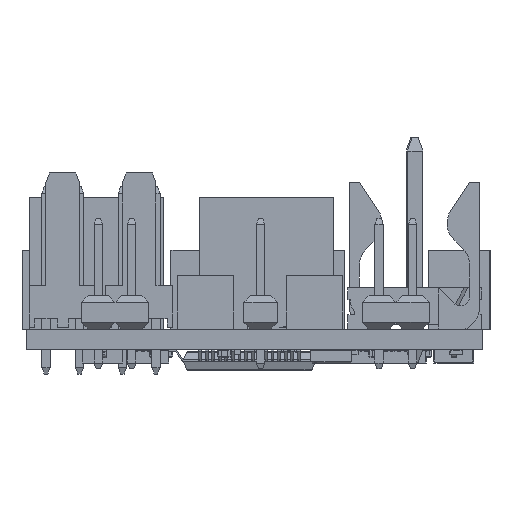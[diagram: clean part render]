
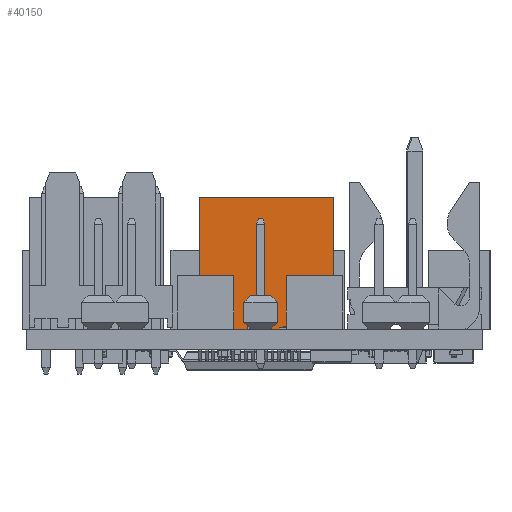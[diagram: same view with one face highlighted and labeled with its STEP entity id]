
A CAD part, left-side view. The second image highlights one B-rep face of the part: STEP entity #40150.
In plain terms, the highlighted planar face has unit normal (-1, 0, 0) as drawn and (0, 1, 0) by its records, which use the part's own axes.
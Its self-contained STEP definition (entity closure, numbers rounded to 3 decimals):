
#2847=PLANE('',#43881);
#5045=FACE_OUTER_BOUND('',#7629,.T.);
#7629=EDGE_LOOP('',(#36505,#36506,#36507,#36508));
#11663=LINE('',#68089,#15701);
#11664=LINE('',#68092,#15702);
#11665=LINE('',#68094,#15703);
#11666=LINE('',#68095,#15704);
#15701=VECTOR('',#54551,10.);
#15702=VECTOR('',#54554,10.);
#15703=VECTOR('',#54555,10.);
#15704=VECTOR('',#54556,10.);
#20288=VERTEX_POINT('',#68083);
#20290=VERTEX_POINT('',#68087);
#20291=VERTEX_POINT('',#68091);
#20292=VERTEX_POINT('',#68093);
#25696=EDGE_CURVE('',#20288,#20290,#11663,.T.);
#25697=EDGE_CURVE('',#20288,#20291,#11664,.T.);
#25698=EDGE_CURVE('',#20292,#20290,#11665,.T.);
#25699=EDGE_CURVE('',#20291,#20292,#11666,.T.);
#36505=ORIENTED_EDGE('',*,*,#25697,.F.);
#36506=ORIENTED_EDGE('',*,*,#25696,.T.);
#36507=ORIENTED_EDGE('',*,*,#25698,.F.);
#36508=ORIENTED_EDGE('',*,*,#25699,.F.);
#40150=ADVANCED_FACE('',(#5045),#2847,.T.);
#43881=AXIS2_PLACEMENT_3D('',#68090,#54552,#54553);
#54551=DIRECTION('',(0.,0.,1.));
#54552=DIRECTION('center_axis',(0.,1.,0.));
#54553=DIRECTION('ref_axis',(-1.,0.,0.));
#54554=DIRECTION('',(1.,0.,0.));
#54555=DIRECTION('',(-1.,0.,0.));
#54556=DIRECTION('',(0.,0.,1.));
#68083=CARTESIAN_POINT('',(-5.1,5.1,0.));
#68087=CARTESIAN_POINT('',(-5.1,5.1,10.));
#68089=CARTESIAN_POINT('',(-5.1,5.1,0.));
#68090=CARTESIAN_POINT('Origin',(5.1,5.1,0.));
#68091=CARTESIAN_POINT('',(5.1,5.1,0.));
#68092=CARTESIAN_POINT('',(-5.1,5.1,0.));
#68093=CARTESIAN_POINT('',(5.1,5.1,10.));
#68094=CARTESIAN_POINT('',(-5.1,5.1,10.));
#68095=CARTESIAN_POINT('',(5.1,5.1,0.));
